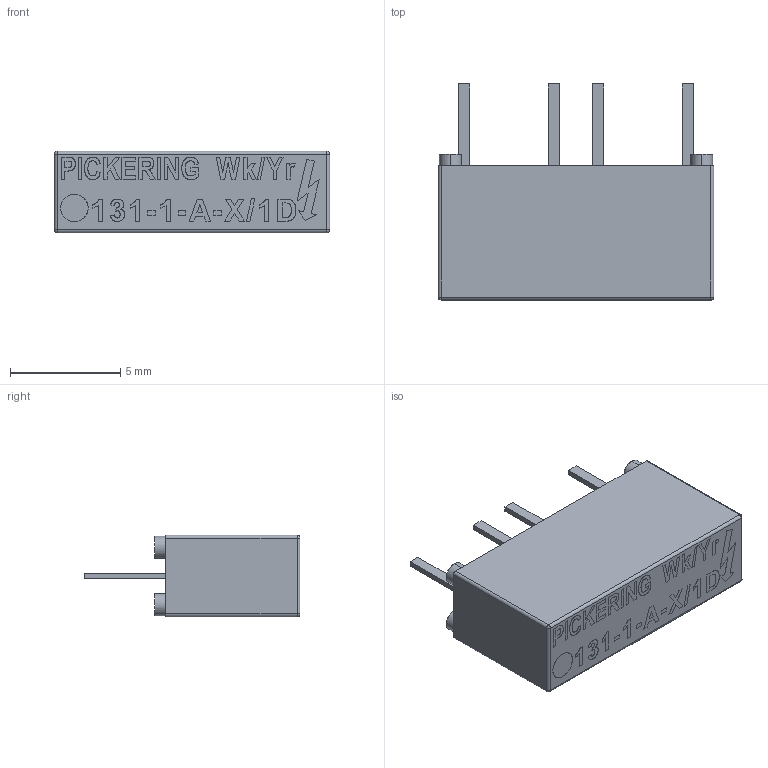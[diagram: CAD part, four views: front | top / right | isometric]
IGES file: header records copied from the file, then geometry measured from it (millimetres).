
Start section: SolidWorks IGES file using analytic representation for surfaces
Global section: file name: T:\ISO2\QMS\DESIGN & DEVELOPMENT\UK PRODUCT\Open Projects\DD031 131 Series\Models for website\131-1-A-X-1D.IGS; native system: SolidWorks 2019; preprocessor: SolidWorks 2019; author: robert.king; date: 200213.161453; units: millimetre
Bounding box: 12.5 x 9.8 x 3.7 mm (x, y, z)
Surface area: 315.6 mm2 (no closed solid volume)
Topology: 0 solids, 0 shells, 339 faces, 2613 edges, 2609 vertices
Faces by surface type: bspline 317, revolution 22
